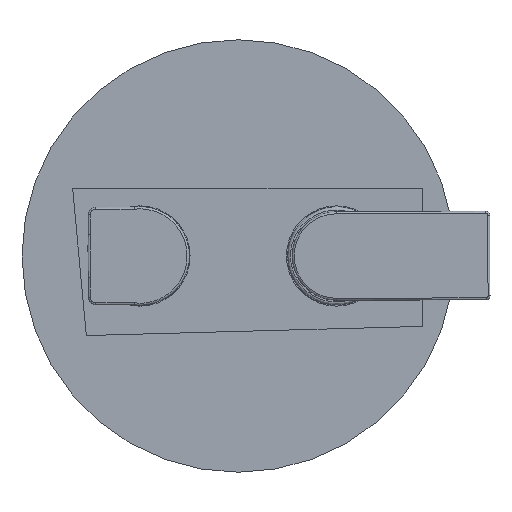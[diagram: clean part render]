
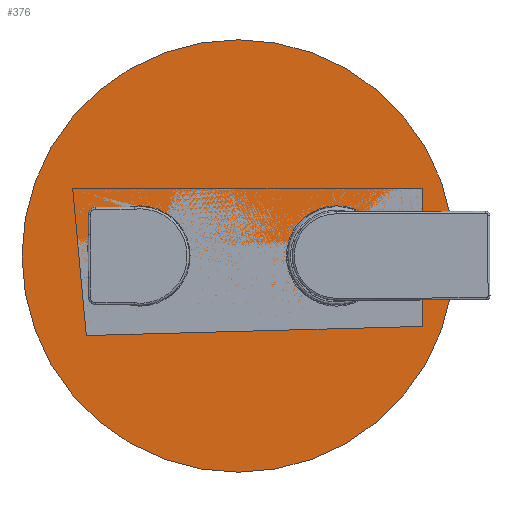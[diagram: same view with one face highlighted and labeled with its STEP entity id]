
A CAD part, front view. The second image highlights one B-rep face of the part: STEP entity #376.
In plain terms, the highlighted planar face has unit normal (0, -1, 0).
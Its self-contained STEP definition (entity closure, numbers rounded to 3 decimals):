
#20 = CARTESIAN_POINT ( 'NONE',  ( -7.88, 26.267, 3.102 ) ) ;
#34 = ORIENTED_EDGE ( 'NONE', *, *, #474, .F. ) ;
#376 = ADVANCED_FACE ( 'NONE', ( #752, #507, #2046 ), #1822, .T. ) ;
#393 = DIRECTION ( 'NONE',  ( 0., 0., -1. ) ) ;
#474 = EDGE_CURVE ( 'NONE', #2335, #2335, #2694, .T. ) ;
#507 = FACE_OUTER_BOUND ( 'NONE', #830, .T. ) ;
#710 = AXIS2_PLACEMENT_3D ( 'NONE', #3220, #2494, #1677 ) ;
#752 = FACE_BOUND ( 'NONE', #2541, .T. ) ;
#815 = AXIS2_PLACEMENT_3D ( 'NONE', #2279, #2558, #3331 ) ;
#816 = CIRCLE ( 'NONE', #710, 110. ) ;
#830 = EDGE_LOOP ( 'NONE', ( #1023 ) ) ;
#1017 = VERTEX_POINT ( 'NONE', #2269 ) ;
#1023 = ORIENTED_EDGE ( 'NONE', *, *, #1947, .T. ) ;
#1244 = AXIS2_PLACEMENT_3D ( 'NONE', #20, #3151, #1339 ) ;
#1339 = DIRECTION ( 'NONE',  ( 0., 0., -1. ) ) ;
#1399 = CIRCLE ( 'NONE', #2919, 25.5 ) ;
#1401 = DIRECTION ( 'NONE',  ( 0., -1., 0. ) ) ;
#1551 = EDGE_LOOP ( 'NONE', ( #34 ) ) ;
#1671 = ORIENTED_EDGE ( 'NONE', *, *, #2095, .F. ) ;
#1677 = DIRECTION ( 'NONE',  ( 0., 0., -1. ) ) ;
#1822 = PLANE ( 'NONE',  #815 ) ;
#1947 = EDGE_CURVE ( 'NONE', #2561, #2561, #816, .T. ) ;
#2046 = FACE_BOUND ( 'NONE', #1551, .T. ) ;
#2095 = EDGE_CURVE ( 'NONE', #1017, #1017, #1399, .T. ) ;
#2269 = CARTESIAN_POINT ( 'NONE',  ( -107.88, 26.267, -22.397 ) ) ;
#2279 = CARTESIAN_POINT ( 'NONE',  ( -57.88, 26.267, 3.103 ) ) ;
#2335 = VERTEX_POINT ( 'NONE', #2535 ) ;
#2494 = DIRECTION ( 'NONE',  ( 0., -1., 0. ) ) ;
#2535 = CARTESIAN_POINT ( 'NONE',  ( -7.88, 26.267, -22.398 ) ) ;
#2541 = EDGE_LOOP ( 'NONE', ( #1671 ) ) ;
#2558 = DIRECTION ( 'NONE',  ( 0., -1., 0. ) ) ;
#2561 = VERTEX_POINT ( 'NONE', #3077 ) ;
#2680 = CARTESIAN_POINT ( 'NONE',  ( -107.88, 26.267, 3.103 ) ) ;
#2694 = CIRCLE ( 'NONE', #1244, 25.5 ) ;
#2919 = AXIS2_PLACEMENT_3D ( 'NONE', #2680, #1401, #393 ) ;
#3077 = CARTESIAN_POINT ( 'NONE',  ( -57.881, 26.267, -106.897 ) ) ;
#3151 = DIRECTION ( 'NONE',  ( 0., -1., 0. ) ) ;
#3220 = CARTESIAN_POINT ( 'NONE',  ( -57.88, 26.267, 3.103 ) ) ;
#3331 = DIRECTION ( 'NONE',  ( 0., 0., -1. ) ) ;
